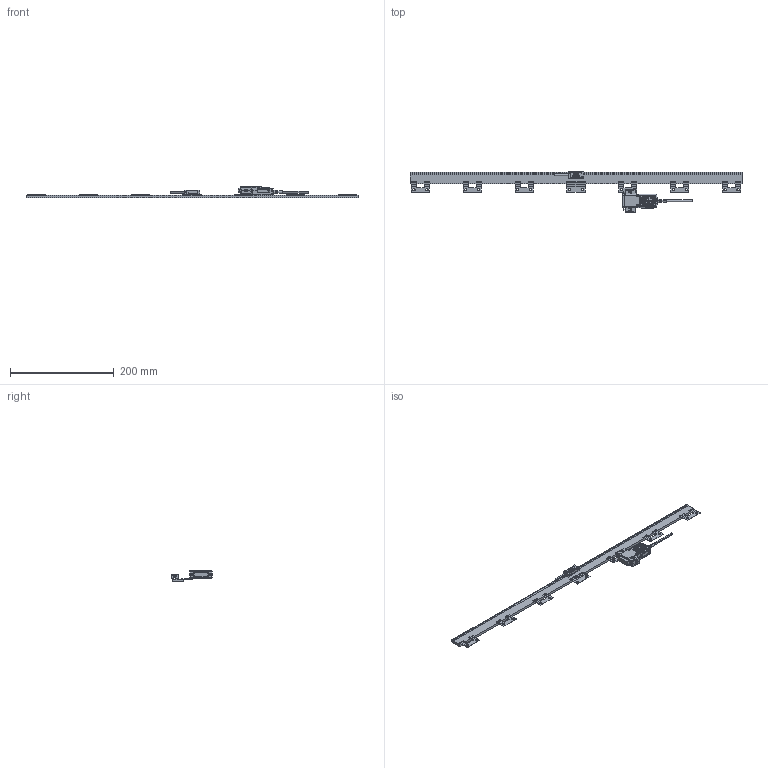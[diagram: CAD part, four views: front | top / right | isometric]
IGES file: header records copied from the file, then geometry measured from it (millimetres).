
Start section: Elysium IGES Interface
Global section: file name: 78H\\Utsu119s\kiyo_cad\data\3D\ST46EZA\HP掲載用_201708\ST46EZA-A\ST46EZA-600A.igs; native system: Creo Elements/Direct Modeling 18.1B  29-Sep-2012; preprocessor: Creo Element/Direct IGES_3D V2.2; author: Unknown; organization: Unknown; date: 20170912.145229; units: millimetre
Bounding box: 640 x 78.25 x 21.95 mm (x, y, z)
Volume: 72378.6 mm3; surface area: 56502.8 mm2
Topology: 3 solids, 8 shells, 2623 faces, 6997 edges, 4550 vertices
Faces by surface type: bspline 2623
